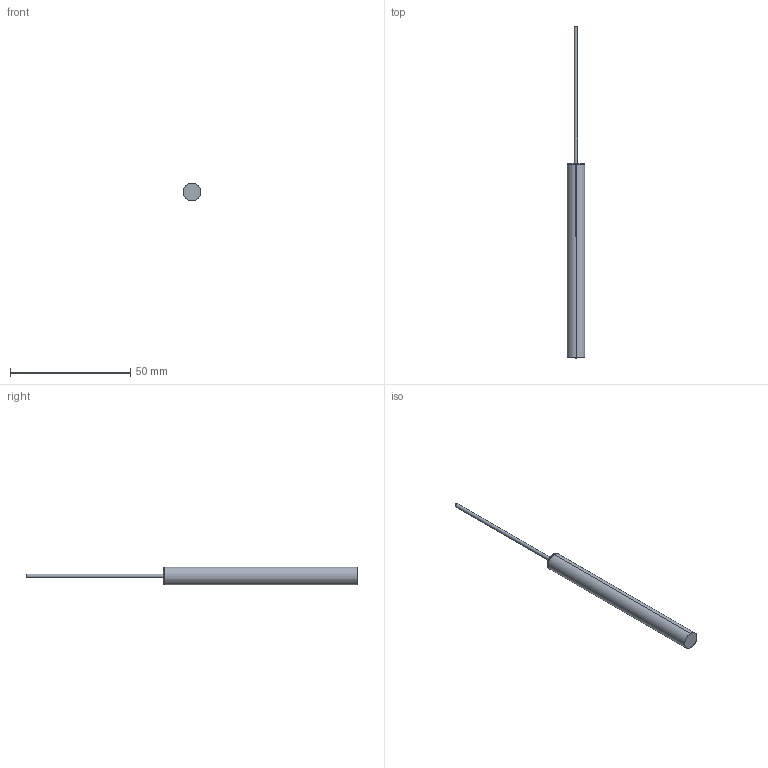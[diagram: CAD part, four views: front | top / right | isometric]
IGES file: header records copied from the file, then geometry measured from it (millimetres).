
Start section: SolidWorks IGES file using analytic representation for surfaces
Bounding box: 7.2 x 138 x 7.2 mm (x, y, z)
Surface area: 2335 mm2 (no closed solid volume)
Topology: 0 solids, 0 shells, 14 faces, 200 edges, 200 vertices
Faces by surface type: bspline 8, revolution 6
